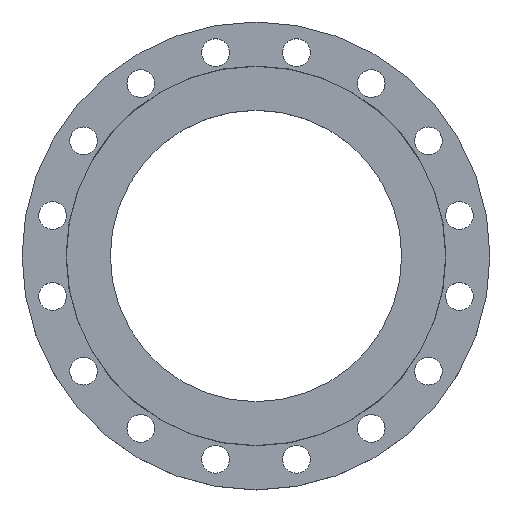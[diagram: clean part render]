
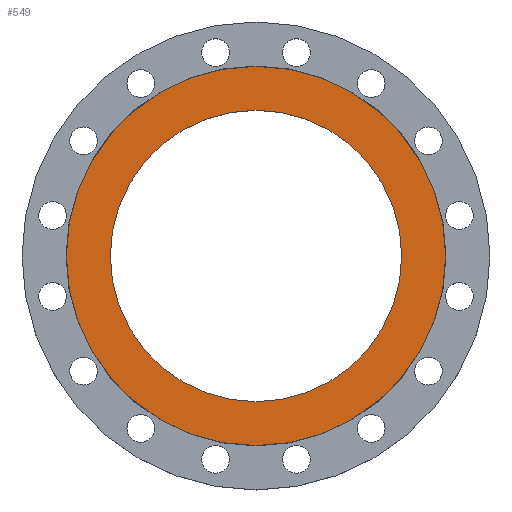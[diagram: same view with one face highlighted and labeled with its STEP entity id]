
A CAD part, top view. The second image highlights one B-rep face of the part: STEP entity #549.
In plain terms, the highlighted planar face has unit normal (0, 0, 1).
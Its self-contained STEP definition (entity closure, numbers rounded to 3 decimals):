
#19 = CIRCLE ( 'NONE', #26, 267.5 ) ;
#26 = AXIS2_PLACEMENT_3D ( 'NONE', #1262, #129, #617 ) ;
#129 = DIRECTION ( 'NONE',  ( 0., 0., -1. ) ) ;
#194 = VERTEX_POINT ( 'NONE', #386 ) ;
#201 = EDGE_LOOP ( 'NONE', ( #600, #608 ) ) ;
#232 = DIRECTION ( 'NONE',  ( -1., 0., 0. ) ) ;
#241 = CARTESIAN_POINT ( 'NONE',  ( 0., 0., 0. ) ) ;
#321 = EDGE_CURVE ( 'NONE', #1155, #390, #19, .T. ) ;
#347 = CIRCLE ( 'NONE', #354, 267.5 ) ;
#353 = DIRECTION ( 'NONE',  ( 1., 0., 0. ) ) ;
#354 = AXIS2_PLACEMENT_3D ( 'NONE', #1169, #1439, #471 ) ;
#386 = CARTESIAN_POINT ( 'NONE',  ( -205.5, 0., 0. ) ) ;
#390 = VERTEX_POINT ( 'NONE', #860 ) ;
#464 = PLANE ( 'NONE',  #1107 ) ;
#471 = DIRECTION ( 'NONE',  ( -1., 0., 0. ) ) ;
#501 = CARTESIAN_POINT ( 'NONE',  ( 267.5, 0., 0. ) ) ;
#533 = CIRCLE ( 'NONE', #800, 205.5 ) ;
#549 = ADVANCED_FACE ( 'NONE', ( #1151, #1436 ), #464, .T. ) ;
#564 = EDGE_CURVE ( 'NONE', #194, #723, #533, .T. ) ;
#600 = ORIENTED_EDGE ( 'NONE', *, *, #564, .T. ) ;
#608 = ORIENTED_EDGE ( 'NONE', *, *, #1018, .T. ) ;
#609 = ORIENTED_EDGE ( 'NONE', *, *, #1008, .F. ) ;
#610 = ORIENTED_EDGE ( 'NONE', *, *, #321, .F. ) ;
#617 = DIRECTION ( 'NONE',  ( -1., 0., 0. ) ) ;
#723 = VERTEX_POINT ( 'NONE', #1189 ) ;
#793 = DIRECTION ( 'NONE',  ( 0., 0., -1. ) ) ;
#800 = AXIS2_PLACEMENT_3D ( 'NONE', #906, #1301, #232 ) ;
#817 = EDGE_LOOP ( 'NONE', ( #609, #610 ) ) ;
#860 = CARTESIAN_POINT ( 'NONE',  ( -267.5, 0., 0. ) ) ;
#906 = CARTESIAN_POINT ( 'NONE',  ( 0., 0., 0. ) ) ;
#986 = AXIS2_PLACEMENT_3D ( 'NONE', #241, #793, #1247 ) ;
#997 = CIRCLE ( 'NONE', #986, 205.5 ) ;
#1008 = EDGE_CURVE ( 'NONE', #390, #1155, #347, .T. ) ;
#1018 = EDGE_CURVE ( 'NONE', #723, #194, #997, .T. ) ;
#1031 = CARTESIAN_POINT ( 'NONE',  ( 0., 0., 0. ) ) ;
#1107 = AXIS2_PLACEMENT_3D ( 'NONE', #1031, #1377, #353 ) ;
#1151 = FACE_BOUND ( 'NONE', #201, .T. ) ;
#1155 = VERTEX_POINT ( 'NONE', #501 ) ;
#1169 = CARTESIAN_POINT ( 'NONE',  ( 0., 0., 0. ) ) ;
#1189 = CARTESIAN_POINT ( 'NONE',  ( 205.5, 0., 0. ) ) ;
#1247 = DIRECTION ( 'NONE',  ( -1., 0., 0. ) ) ;
#1262 = CARTESIAN_POINT ( 'NONE',  ( 0., 0., 0. ) ) ;
#1301 = DIRECTION ( 'NONE',  ( 0., 0., -1. ) ) ;
#1377 = DIRECTION ( 'NONE',  ( 0., 0., 1. ) ) ;
#1436 = FACE_OUTER_BOUND ( 'NONE', #817, .T. ) ;
#1439 = DIRECTION ( 'NONE',  ( 0., 0., -1. ) ) ;
